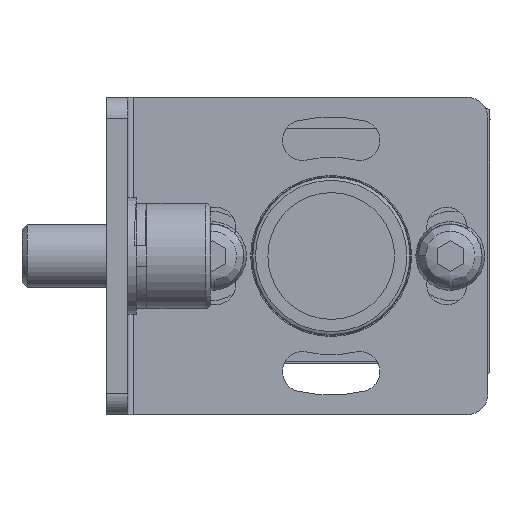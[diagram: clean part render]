
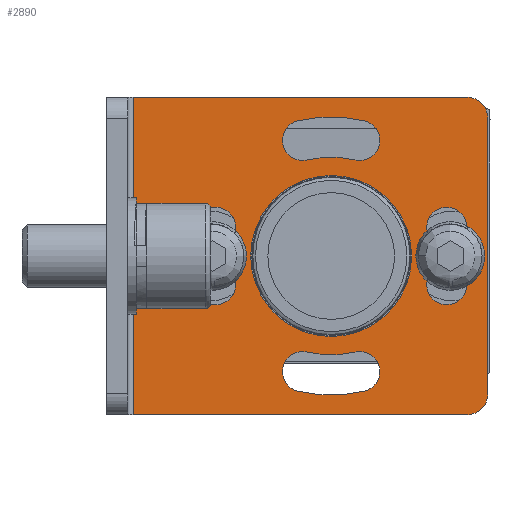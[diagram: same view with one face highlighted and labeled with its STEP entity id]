
A CAD part, front view. The second image highlights one B-rep face of the part: STEP entity #2890.
In plain terms, the highlighted planar face has unit normal (0, -1, 0).
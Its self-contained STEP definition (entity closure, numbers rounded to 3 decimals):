
#692=LINE('',#40684,#1452);
#697=LINE('',#40696,#1457);
#703=LINE('',#40712,#1463);
#707=LINE('',#40736,#1467);
#1452=VECTOR('',#13263,1.);
#1457=VECTOR('',#13272,1.);
#1463=VECTOR('',#13290,1.);
#1467=VECTOR('',#13320,1.);
#1962=PLANE('',#11082);
#2299=FACE_BOUND('',#4309,.T.);
#2300=FACE_BOUND('',#4310,.T.);
#2301=FACE_BOUND('',#4311,.T.);
#2302=FACE_BOUND('',#4312,.T.);
#2303=FACE_BOUND('',#4313,.T.);
#2304=FACE_BOUND('',#4314,.T.);
#2890=ADVANCED_FACE('',(#2299,#2300,#2301,#2302,#2303,#2304),#1962,.T.);
#4309=EDGE_LOOP('',(#6781,#6782,#6783,#6784));
#4310=EDGE_LOOP('',(#6785,#6786,#6787,#6788));
#4311=EDGE_LOOP('',(#6789,#6790,#6791,#6792));
#4312=EDGE_LOOP('',(#6793));
#4313=EDGE_LOOP('',(#6794,#6795,#6796,#6797));
#4314=EDGE_LOOP('',(#6798,#6799,#6800,#6801,#6802,#6803));
#6781=ORIENTED_EDGE('',*,*,#9603,.T.);
#6782=ORIENTED_EDGE('',*,*,#9604,.T.);
#6783=ORIENTED_EDGE('',*,*,#9542,.T.);
#6784=ORIENTED_EDGE('',*,*,#9605,.T.);
#6785=ORIENTED_EDGE('',*,*,#9606,.T.);
#6786=ORIENTED_EDGE('',*,*,#9546,.T.);
#6787=ORIENTED_EDGE('',*,*,#9607,.T.);
#6788=ORIENTED_EDGE('',*,*,#9550,.T.);
#6789=ORIENTED_EDGE('',*,*,#9608,.T.);
#6790=ORIENTED_EDGE('',*,*,#9554,.T.);
#6791=ORIENTED_EDGE('',*,*,#9609,.T.);
#6792=ORIENTED_EDGE('',*,*,#9558,.T.);
#6793=ORIENTED_EDGE('',*,*,#9563,.T.);
#6794=ORIENTED_EDGE('',*,*,#9610,.T.);
#6795=ORIENTED_EDGE('',*,*,#9611,.T.);
#6796=ORIENTED_EDGE('',*,*,#9612,.T.);
#6797=ORIENTED_EDGE('',*,*,#9564,.T.);
#6798=ORIENTED_EDGE('',*,*,#9613,.T.);
#6799=ORIENTED_EDGE('',*,*,#9614,.T.);
#6800=ORIENTED_EDGE('',*,*,#9598,.F.);
#6801=ORIENTED_EDGE('',*,*,#9584,.T.);
#6802=ORIENTED_EDGE('',*,*,#9590,.F.);
#6803=ORIENTED_EDGE('',*,*,#9615,.T.);
#8262=VERTEX_POINT('',#40594);
#8263=VERTEX_POINT('',#40595);
#8266=VERTEX_POINT('',#40603);
#8267=VERTEX_POINT('',#40604);
#8270=VERTEX_POINT('',#40612);
#8271=VERTEX_POINT('',#40613);
#8274=VERTEX_POINT('',#40621);
#8275=VERTEX_POINT('',#40622);
#8278=VERTEX_POINT('',#40630);
#8279=VERTEX_POINT('',#40631);
#8283=VERTEX_POINT('',#40641);
#8284=VERTEX_POINT('',#40644);
#8285=VERTEX_POINT('',#40645);
#8298=VERTEX_POINT('',#40681);
#8299=VERTEX_POINT('',#40683);
#8304=VERTEX_POINT('',#40695);
#8309=VERTEX_POINT('',#40713);
#8312=VERTEX_POINT('',#40723);
#8313=VERTEX_POINT('',#40724);
#8314=VERTEX_POINT('',#40732);
#8315=VERTEX_POINT('',#40734);
#8316=VERTEX_POINT('',#40737);
#8317=VERTEX_POINT('',#40738);
#9542=EDGE_CURVE('',#8262,#8263,#10244,.T.);
#9546=EDGE_CURVE('',#8266,#8267,#10246,.T.);
#9550=EDGE_CURVE('',#8270,#8271,#10248,.T.);
#9554=EDGE_CURVE('',#8274,#8275,#10250,.T.);
#9558=EDGE_CURVE('',#8278,#8279,#10252,.T.);
#9563=EDGE_CURVE('',#8283,#8283,#10255,.T.);
#9564=EDGE_CURVE('',#8284,#8285,#10256,.T.);
#9584=EDGE_CURVE('',#8298,#8299,#692,.T.);
#9590=EDGE_CURVE('',#8304,#8299,#697,.T.);
#9598=EDGE_CURVE('',#8298,#8309,#703,.T.);
#9603=EDGE_CURVE('',#8312,#8313,#10268,.T.);
#9604=EDGE_CURVE('',#8313,#8262,#10269,.T.);
#9605=EDGE_CURVE('',#8263,#8312,#10270,.T.);
#9606=EDGE_CURVE('',#8271,#8266,#10271,.T.);
#9607=EDGE_CURVE('',#8267,#8270,#10272,.T.);
#9608=EDGE_CURVE('',#8279,#8274,#10273,.T.);
#9609=EDGE_CURVE('',#8275,#8278,#10274,.T.);
#9610=EDGE_CURVE('',#8285,#8314,#10275,.T.);
#9611=EDGE_CURVE('',#8314,#8315,#10276,.T.);
#9612=EDGE_CURVE('',#8315,#8284,#10277,.T.);
#9613=EDGE_CURVE('',#8316,#8317,#707,.T.);
#9614=EDGE_CURVE('',#8317,#8309,#10278,.T.);
#9615=EDGE_CURVE('',#8304,#8316,#10279,.T.);
#10244=CIRCLE('',#11028,1.9);
#10246=CIRCLE('',#11031,13.15);
#10248=CIRCLE('',#11034,9.35);
#10250=CIRCLE('',#11037,1.9);
#10252=CIRCLE('',#11040,1.9);
#10255=CIRCLE('',#11044,7.6);
#10256=CIRCLE('',#11046,1.9);
#10268=CIRCLE('',#11070,1.9);
#10269=CIRCLE('',#11071,13.15);
#10270=CIRCLE('',#11072,9.35);
#10271=CIRCLE('',#11073,1.9);
#10272=CIRCLE('',#11074,1.9);
#10273=CIRCLE('',#11075,13.15);
#10274=CIRCLE('',#11076,9.35);
#10275=CIRCLE('',#11077,13.15);
#10276=CIRCLE('',#11078,1.9);
#10277=CIRCLE('',#11079,9.35);
#10278=CIRCLE('',#11080,2.);
#10279=CIRCLE('',#11081,2.);
#11028=AXIS2_PLACEMENT_3D('',#40593,#13179,#13180);
#11031=AXIS2_PLACEMENT_3D('',#40602,#13187,#13188);
#11034=AXIS2_PLACEMENT_3D('',#40611,#13195,#13196);
#11037=AXIS2_PLACEMENT_3D('',#40620,#13203,#13204);
#11040=AXIS2_PLACEMENT_3D('',#40629,#13211,#13212);
#11044=AXIS2_PLACEMENT_3D('',#40640,#13221,#13222);
#11046=AXIS2_PLACEMENT_3D('',#40643,#13225,#13226);
#11070=AXIS2_PLACEMENT_3D('',#40722,#13300,#13301);
#11071=AXIS2_PLACEMENT_3D('',#40725,#13302,#13303);
#11072=AXIS2_PLACEMENT_3D('',#40726,#13304,#13305);
#11073=AXIS2_PLACEMENT_3D('',#40727,#13306,#13307);
#11074=AXIS2_PLACEMENT_3D('',#40728,#13308,#13309);
#11075=AXIS2_PLACEMENT_3D('',#40729,#13310,#13311);
#11076=AXIS2_PLACEMENT_3D('',#40730,#13312,#13313);
#11077=AXIS2_PLACEMENT_3D('',#40731,#13314,#13315);
#11078=AXIS2_PLACEMENT_3D('',#40733,#13316,#13317);
#11079=AXIS2_PLACEMENT_3D('',#40735,#13318,#13319);
#11080=AXIS2_PLACEMENT_3D('',#40739,#13321,#13322);
#11081=AXIS2_PLACEMENT_3D('',#40740,#13323,#13324);
#11082=AXIS2_PLACEMENT_3D('',#40741,#13325,#13326);
#13179=DIRECTION('',(0.,1.,0.));
#13180=DIRECTION('',(0.,0.,1.));
#13187=DIRECTION('',(0.,1.,0.));
#13188=DIRECTION('',(0.,0.,1.));
#13195=DIRECTION('',(0.,-1.,0.));
#13196=DIRECTION('',(0.,0.,1.));
#13203=DIRECTION('',(0.,1.,0.));
#13204=DIRECTION('',(0.,0.,1.));
#13211=DIRECTION('',(0.,1.,0.));
#13212=DIRECTION('',(0.,0.,1.));
#13221=DIRECTION('',(0.,1.,0.));
#13222=DIRECTION('',(0.,0.,1.));
#13225=DIRECTION('',(0.,1.,0.));
#13226=DIRECTION('',(0.,0.,1.));
#13263=DIRECTION('',(0.,0.,-1.));
#13272=DIRECTION('',(-1.,0.,0.));
#13290=DIRECTION('',(1.,0.,0.));
#13300=DIRECTION('',(0.,1.,0.));
#13301=DIRECTION('',(0.,0.,1.));
#13302=DIRECTION('',(0.,1.,0.));
#13303=DIRECTION('',(0.,0.,1.));
#13304=DIRECTION('',(0.,-1.,0.));
#13305=DIRECTION('',(0.,0.,1.));
#13306=DIRECTION('',(0.,1.,0.));
#13307=DIRECTION('',(0.,0.,1.));
#13308=DIRECTION('',(0.,1.,0.));
#13309=DIRECTION('',(0.,0.,1.));
#13310=DIRECTION('',(0.,1.,0.));
#13311=DIRECTION('',(0.,0.,1.));
#13312=DIRECTION('',(0.,-1.,0.));
#13313=DIRECTION('',(0.,0.,1.));
#13314=DIRECTION('',(0.,1.,0.));
#13315=DIRECTION('',(0.,0.,1.));
#13316=DIRECTION('',(0.,1.,0.));
#13317=DIRECTION('',(0.,0.,1.));
#13318=DIRECTION('',(0.,-1.,0.));
#13319=DIRECTION('',(0.,0.,1.));
#13320=DIRECTION('',(0.,0.,1.));
#13321=DIRECTION('',(0.,-1.,0.));
#13322=DIRECTION('',(0.,0.,-1.));
#13323=DIRECTION('',(0.,-1.,0.));
#13324=DIRECTION('',(0.,0.,1.));
#13325=DIRECTION('',(0.,-1.,0.));
#13326=DIRECTION('',(1.,0.,0.));
#40593=CARTESIAN_POINT('',(-110.921,-128.,2.851));
#40594=CARTESIAN_POINT('',(-112.765,-128.,3.307));
#40595=CARTESIAN_POINT('',(-109.077,-128.,2.395));
#40602=CARTESIAN_POINT('',(-100.,-128.,0.15));
#40603=CARTESIAN_POINT('',(-103.157,-128.,12.915));
#40604=CARTESIAN_POINT('',(-96.843,-128.,12.915));
#40611=CARTESIAN_POINT('',(-100.,-128.,0.15));
#40612=CARTESIAN_POINT('',(-97.755,-128.,9.227));
#40613=CARTESIAN_POINT('',(-102.245,-128.,9.227));
#40620=CARTESIAN_POINT('',(-102.701,-128.,-10.771));
#40621=CARTESIAN_POINT('',(-103.157,-128.,-12.615));
#40622=CARTESIAN_POINT('',(-102.245,-128.,-8.927));
#40629=CARTESIAN_POINT('',(-97.299,-128.,-10.771));
#40630=CARTESIAN_POINT('',(-97.755,-128.,-8.927));
#40631=CARTESIAN_POINT('',(-96.843,-128.,-12.615));
#40640=CARTESIAN_POINT('',(-100.,-128.,0.15));
#40641=CARTESIAN_POINT('',(-100.,-128.,7.75));
#40643=CARTESIAN_POINT('',(-89.079,-128.,2.851));
#40644=CARTESIAN_POINT('',(-90.923,-128.,2.395));
#40645=CARTESIAN_POINT('',(-87.235,-128.,3.307));
#40681=CARTESIAN_POINT('',(-118.7,-128.,15.15));
#40683=CARTESIAN_POINT('',(-118.7,-128.,-14.85));
#40684=CARTESIAN_POINT('',(-118.7,-128.,15.15));
#40695=CARTESIAN_POINT('',(-87.2,-128.,-14.85));
#40696=CARTESIAN_POINT('',(-118.7,-128.,-14.85));
#40712=CARTESIAN_POINT('',(-118.7,-128.,15.15));
#40713=CARTESIAN_POINT('',(-87.2,-128.,15.15));
#40722=CARTESIAN_POINT('',(-110.921,-128.,-2.551));
#40723=CARTESIAN_POINT('',(-109.077,-128.,-2.095));
#40724=CARTESIAN_POINT('',(-112.765,-128.,-3.007));
#40725=CARTESIAN_POINT('',(-100.,-128.,0.15));
#40726=CARTESIAN_POINT('',(-100.,-128.,0.15));
#40727=CARTESIAN_POINT('',(-102.701,-128.,11.071));
#40728=CARTESIAN_POINT('',(-97.299,-128.,11.071));
#40729=CARTESIAN_POINT('',(-100.,-128.,0.15));
#40730=CARTESIAN_POINT('',(-100.,-128.,0.15));
#40731=CARTESIAN_POINT('',(-100.,-128.,0.15));
#40732=CARTESIAN_POINT('',(-87.235,-128.,-3.007));
#40733=CARTESIAN_POINT('',(-89.079,-128.,-2.551));
#40734=CARTESIAN_POINT('',(-90.923,-128.,-2.095));
#40735=CARTESIAN_POINT('',(-100.,-128.,0.15));
#40736=CARTESIAN_POINT('',(-85.2,-128.,15.15));
#40737=CARTESIAN_POINT('',(-85.2,-128.,-12.85));
#40738=CARTESIAN_POINT('',(-85.2,-128.,13.15));
#40739=CARTESIAN_POINT('',(-87.2,-128.,13.15));
#40740=CARTESIAN_POINT('',(-87.2,-128.,-12.85));
#40741=CARTESIAN_POINT('',(-85.2,-128.,15.15));
